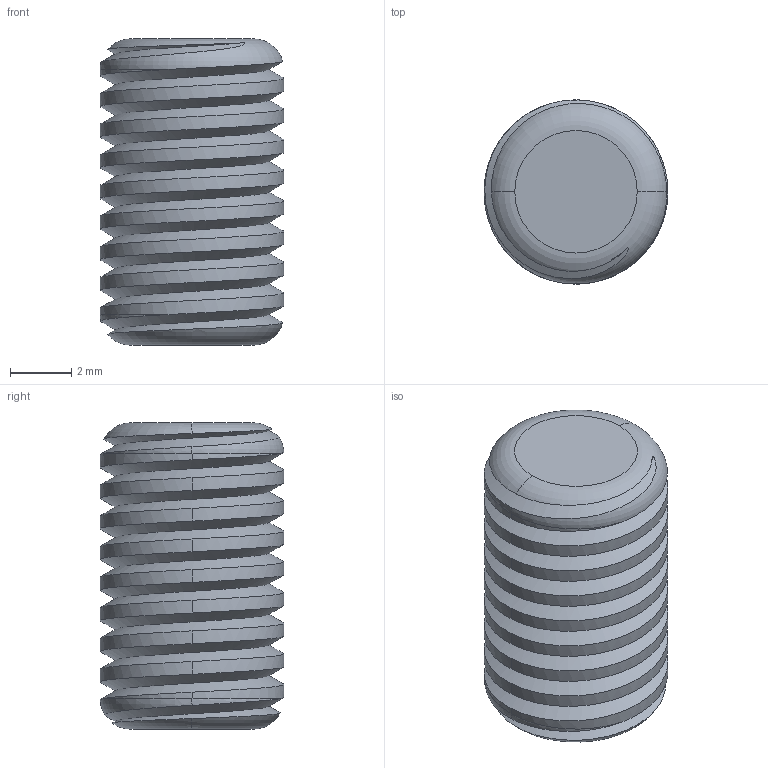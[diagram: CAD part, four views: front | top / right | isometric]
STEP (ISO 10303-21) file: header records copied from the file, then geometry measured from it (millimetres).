
FILE_DESCRIPTION (( 'STEP AP203' ), '1' );
FILE_NAME ('153-CE-IFB-M6.STEP', '2015-07-09T09:07:20', ( '' ), ( '' ), 'SwSTEP 2.0', 'SolidWorks 2013', '' );
FILE_SCHEMA (( 'CONFIG_CONTROL_DESIGN' ));
Length unit declared in the file: millimetre
Products named in the file (1): 153-CE-IFB-M6
Bounding box: 6 x 6 x 10 mm (x, y, z)
Volume: 228 mm3; surface area: 341.8 mm2
Topology: 1 solids, 1 shells, 35 faces, 94 edges, 62 vertices
Faces by surface type: cylinder 18, plane 9, torus 6, bspline 2
Entity records: 2298 total; most frequent: CARTESIAN_POINT 1460, ORIENTED_EDGE 188, DIRECTION 131, EDGE_CURVE 94, VERTEX_POINT 62, AXIS2_PLACEMENT_3D 48, EDGE_LOOP 36, ADVANCED_FACE 35
